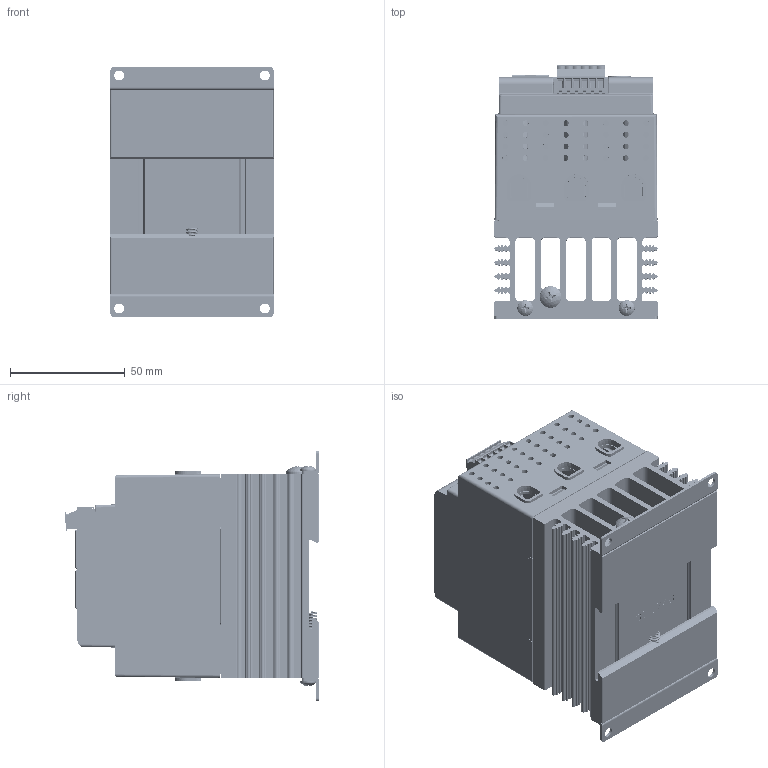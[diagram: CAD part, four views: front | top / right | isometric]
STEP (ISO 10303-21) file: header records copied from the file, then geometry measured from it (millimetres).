
FILE_DESCRIPTION(/* description */ (''),/* implementation_level */ '2;1');
FILE_NAME(/* name */ '3-phase EtherCAT 16A w-tabs.stp',/* time_stamp */ '2024-11-15T09:51:20-06:00',/* author */ ('ErikG'),/* organization */ (''),/* preprocessor_version */ 'ST-DEVELOPER v20',/* originating_system */ 'Autodesk Inventor 2025',/* authorisation */ '');
FILE_SCHEMA (('AUTOMOTIVE_DESIGN { 1 0 10303 214 3 1 1 }'));
Products named in the file (35): 3001632e; SCA-3TC; P1; usb-c31-s-vt-cs4-bk-pp-t-r-model ADAMTECH; P6; fci 6 pin header OQ06120000J0G; fci 6 pin headerOQ06120000J0G half 1; fci 5 pin header OQ05120000J0G half 2; fci 6 pin connector TS06110B00J0G; fci 5 pin connector TS05110B00J0G LEFT HALF; fci 5 pin connector TS05110B00J0G RIGHT HALF; P2; TC0203620000G; P11; P5; 74990101210 (rev1); base; shielding; SCA-3TC_1; SW3; SW2; SH-7070TA; _SH-7070A_body; _SH-700-Without knob (Minus slot); 3001769C_ecat cutouts; 3001761; 3001759; 3001766; 3001765b; 3001748; spring; 0060783-0610-010.ipt; 0060702-1032-0375; 0060002-0632-0375; 3001753
Assembly tree (42 placements, depth 6):
  3001632e
    SCA-3TC
      P1
        usb-c31-s-vt-cs4-bk-pp-t-r-model ADAMTECH
      P6
        fci 6 pin header OQ06120000J0G
          fci 6 pin headerOQ06120000J0G half 1
          fci 5 pin header OQ05120000J0G half 2
          fci 6 pin connector TS06110B00J0G
            fci 5 pin connector TS05110B00J0G LEFT HALF
            fci 5 pin connector TS05110B00J0G RIGHT HALF
      P2
        TC0203620000G
      P11
        74990101210 (rev1)
          base
          shielding
      P5
        74990101210 (rev1)
          base
          shielding
    SCA-3TC_1
      SW3
        SH-7070TA
          _SH-7070A_body
          _SH-700-Without knob (Minus slot)
      SW2
        SH-7070TA
          _SH-7070A_body
          _SH-700-Without knob (Minus slot)
    3001769C_ecat cutouts
    3001761  x3
    3001759
    3001766
    3001765b
    3001748
    spring
    0060783-0610-010.ipt
    0060702-1032-0375
    3001753  x2
    0060002-0632-0375  x4
Bounding box: 71.12 x 110.89 x 109.22 mm (x, y, z)
Volume: 233323.2 mm3; surface area: 218976.3 mm2
Topology: 32 solids, 122 shells, 10327 faces, 28878 edges, 18986 vertices
Faces by surface type: plane 8073, cylinder 1621, cone 380, bspline 127, torus 103, sphere 23
Full cylindrical faces by diameter (mm): 0.254 x1, 0.45 x2, 0.55 x2, 0.65 x2, 1 x6, 1.2 x2, 1.75 x2, 2.15 x12, 2.3 x12, 2.642 x6, 2.7 x2, 2.8 x4, 2.95 x6, 3.277 x4, 3.28 x2, 3.3 x2, 3.342 x1, 3.4 x2, 3.42 x2, 3.505 x4, 3.6 x2, 4 x2, 4.318 x8, 4.826 x1, 4.917 x1, 6 x1, 6.172 x1, 6.731 x2, 6.858 x4, 7.976 x1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
Entity records: 283328 total; most frequent: CARTESIAN_POINT 72618, ORIENTED_EDGE 44670, DIRECTION 41116, EDGE_CURVE 22335, LINE 17638, VECTOR 17638, VERTEX_POINT 14704, AXIS2_PLACEMENT_3D 11739
